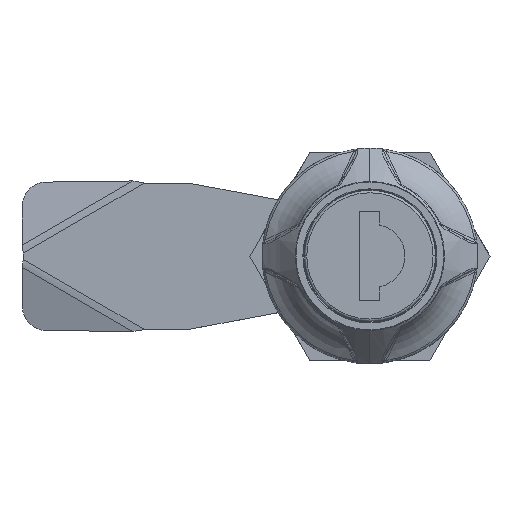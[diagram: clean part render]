
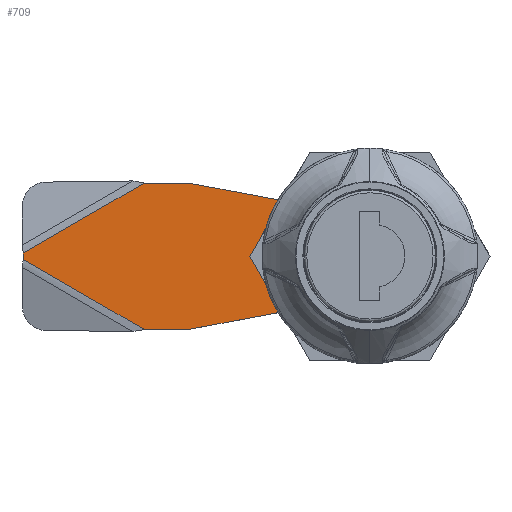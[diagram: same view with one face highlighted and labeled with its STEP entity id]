
A CAD part, top view. The second image highlights one B-rep face of the part: STEP entity #709.
In plain terms, the highlighted planar face has unit normal (0, 0, 1).
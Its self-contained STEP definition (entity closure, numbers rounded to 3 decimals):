
#60 = DIRECTION ( 'NONE',  ( 0.983, -0.185, 0. ) ) ;
#115 = DIRECTION ( 'NONE',  ( 1., 0., 0. ) ) ;
#164 = CARTESIAN_POINT ( 'NONE',  ( 4.05, 4.05, 3. ) ) ;
#176 = EDGE_CURVE ( 'NONE', #8195, #1231, #4785, .T. ) ;
#409 = DIRECTION ( 'NONE',  ( -0.866, -0.5, 0. ) ) ;
#709 = ADVANCED_FACE ( 'NONE', ( #4428, #13601 ), #11574, .F. ) ;
#757 = EDGE_CURVE ( 'NONE', #13586, #6692, #7002, .T. ) ;
#796 = VECTOR ( 'NONE', #7290, 1000. ) ;
#848 = EDGE_CURVE ( 'NONE', #2318, #7165, #4076, .T. ) ;
#1111 = CIRCLE ( 'NONE', #3354, 8.5 ) ;
#1177 = VERTEX_POINT ( 'NONE', #9612 ) ;
#1231 = VERTEX_POINT ( 'NONE', #10617 ) ;
#1470 = CARTESIAN_POINT ( 'NONE',  ( -4.05, 4.05, 3. ) ) ;
#1522 = LINE ( 'NONE', #2744, #9975 ) ;
#1618 = CARTESIAN_POINT ( 'NONE',  ( -4.05, -9.5, 3. ) ) ;
#1634 = ORIENTED_EDGE ( 'NONE', *, *, #11701, .T. ) ;
#1691 = CIRCLE ( 'NONE', #10414, 8.5 ) ;
#1791 = EDGE_CURVE ( 'NONE', #11611, #7147, #6713, .T. ) ;
#1807 = VECTOR ( 'NONE', #13968, 1000. ) ;
#2033 = CARTESIAN_POINT ( 'NONE',  ( 10., -4.05, 3. ) ) ;
#2050 = LINE ( 'NONE', #4503, #11181 ) ;
#2176 = CARTESIAN_POINT ( 'NONE',  ( -8.5, 0., 3. ) ) ;
#2228 = CARTESIAN_POINT ( 'NONE',  ( 45., -0.433, 3. ) ) ;
#2304 = ORIENTED_EDGE ( 'NONE', *, *, #13792, .F. ) ;
#2318 = VERTEX_POINT ( 'NONE', #1470 ) ;
#2336 = DIRECTION ( 'NONE',  ( 0., 0., 1. ) ) ;
#2438 = AXIS2_PLACEMENT_3D ( 'NONE', #12486, #14244, #14158 ) ;
#2454 = CARTESIAN_POINT ( 'NONE',  ( 23.5, 9.5, 3. ) ) ;
#2735 = VECTOR ( 'NONE', #60, 1000. ) ;
#2744 = CARTESIAN_POINT ( 'NONE',  ( 23.051, 13.105, 3. ) ) ;
#2908 = ORIENTED_EDGE ( 'NONE', *, *, #9303, .T. ) ;
#3002 = ORIENTED_EDGE ( 'NONE', *, *, #6916, .T. ) ;
#3106 = CARTESIAN_POINT ( 'NONE',  ( 4.05, -9.5, 3. ) ) ;
#3156 = CARTESIAN_POINT ( 'NONE',  ( -4.05, -4.05, 3. ) ) ;
#3354 = AXIS2_PLACEMENT_3D ( 'NONE', #13447, #6807, #115 ) ;
#3484 = LINE ( 'NONE', #3106, #6770 ) ;
#3523 = CARTESIAN_POINT ( 'NONE',  ( 29.295, -9.5, 3. ) ) ;
#3734 = ORIENTED_EDGE ( 'NONE', *, *, #8461, .T. ) ;
#3760 = CARTESIAN_POINT ( 'NONE',  ( 14.824, -17.855, 3. ) ) ;
#3824 = CIRCLE ( 'NONE', #5104, 2.5 ) ;
#4076 = LINE ( 'NONE', #4815, #8882 ) ;
#4178 = CARTESIAN_POINT ( 'NONE',  ( 10., 9.5, 3. ) ) ;
#4203 = CARTESIAN_POINT ( 'NONE',  ( 10., -9.5, 3. ) ) ;
#4294 = CARTESIAN_POINT ( 'NONE',  ( 45., 0.433, 3. ) ) ;
#4428 = FACE_OUTER_BOUND ( 'NONE', #9213, .T. ) ;
#4503 = CARTESIAN_POINT ( 'NONE',  ( 10.463, 7.043, 3. ) ) ;
#4573 = DIRECTION ( 'NONE',  ( 1., 0., 0. ) ) ;
#4720 = VERTEX_POINT ( 'NONE', #12326 ) ;
#4785 = LINE ( 'NONE', #13024, #1807 ) ;
#4815 = CARTESIAN_POINT ( 'NONE',  ( 10., 4.05, 3. ) ) ;
#5104 = AXIS2_PLACEMENT_3D ( 'NONE', #4178, #11890, #5286 ) ;
#5286 = DIRECTION ( 'NONE',  ( 1., 0., 0. ) ) ;
#5583 = ORIENTED_EDGE ( 'NONE', *, *, #176, .T. ) ;
#6347 = VERTEX_POINT ( 'NONE', #3156 ) ;
#6371 = VECTOR ( 'NONE', #7835, 1000. ) ;
#6374 = LINE ( 'NONE', #1618, #796 ) ;
#6394 = DIRECTION ( 'NONE',  ( -1., 0., 0. ) ) ;
#6395 = DIRECTION ( 'NONE',  ( -1., 0., 0. ) ) ;
#6692 = VERTEX_POINT ( 'NONE', #7023 ) ;
#6713 = LINE ( 'NONE', #11712, #12601 ) ;
#6730 = CARTESIAN_POINT ( 'NONE',  ( 45., 6.5, 3. ) ) ;
#6770 = VECTOR ( 'NONE', #11950, 1000. ) ;
#6807 = DIRECTION ( 'NONE',  ( 0., 0., 1. ) ) ;
#6916 = EDGE_CURVE ( 'NONE', #4720, #8195, #3824, .T. ) ;
#7002 = CIRCLE ( 'NONE', #2438, 2.5 ) ;
#7023 = CARTESIAN_POINT ( 'NONE',  ( 10.463, -7.043, 3. ) ) ;
#7147 = VERTEX_POINT ( 'NONE', #3523 ) ;
#7165 = VERTEX_POINT ( 'NONE', #164 ) ;
#7169 = EDGE_LOOP ( 'NONE', ( #1634, #9648, #12668, #8140 ) ) ;
#7290 = DIRECTION ( 'NONE',  ( 0., 1., 0. ) ) ;
#7416 = CARTESIAN_POINT ( 'NONE',  ( 29.295, 9.5, 3. ) ) ;
#7835 = DIRECTION ( 'NONE',  ( 0.987, 0.163, 0. ) ) ;
#8115 = EDGE_CURVE ( 'NONE', #11643, #8309, #13167, .T. ) ;
#8140 = ORIENTED_EDGE ( 'NONE', *, *, #848, .T. ) ;
#8195 = VERTEX_POINT ( 'NONE', #10986 ) ;
#8239 = DIRECTION ( 'NONE',  ( -0.866, 0.5, 0. ) ) ;
#8255 = DIRECTION ( 'NONE',  ( 0., 0., -1. ) ) ;
#8259 = VECTOR ( 'NONE', #13368, 1000. ) ;
#8309 = VERTEX_POINT ( 'NONE', #2454 ) ;
#8314 = ORIENTED_EDGE ( 'NONE', *, *, #1791, .T. ) ;
#8461 = EDGE_CURVE ( 'NONE', #6692, #11611, #9295, .T. ) ;
#8758 = LINE ( 'NONE', #6730, #8259 ) ;
#8834 = VERTEX_POINT ( 'NONE', #2228 ) ;
#8882 = VECTOR ( 'NONE', #4573, 1000. ) ;
#8905 = CARTESIAN_POINT ( 'NONE',  ( 10.463, -7.043, 3. ) ) ;
#8916 = VERTEX_POINT ( 'NONE', #10029 ) ;
#8929 = EDGE_CURVE ( 'NONE', #8916, #13586, #12240, .T. ) ;
#8954 = CARTESIAN_POINT ( 'NONE',  ( 0., 0., 3. ) ) ;
#9199 = VERTEX_POINT ( 'NONE', #4294 ) ;
#9213 = EDGE_LOOP ( 'NONE', ( #2304, #2908, #13714, #11627, #14335, #3002, #5583, #13760, #13094, #12171, #10675, #3734, #8314 ) ) ;
#9295 = LINE ( 'NONE', #8905, #2735 ) ;
#9303 = EDGE_CURVE ( 'NONE', #8834, #9199, #8758, .T. ) ;
#9469 = VECTOR ( 'NONE', #6395, 1000. ) ;
#9612 = CARTESIAN_POINT ( 'NONE',  ( 4.05, -4.05, 3. ) ) ;
#9648 = ORIENTED_EDGE ( 'NONE', *, *, #14250, .T. ) ;
#9741 = EDGE_CURVE ( 'NONE', #6347, #2318, #6374, .T. ) ;
#9975 = VECTOR ( 'NONE', #8239, 1000. ) ;
#10029 = CARTESIAN_POINT ( 'NONE',  ( 1.383, -8.387, 3. ) ) ;
#10049 = DIRECTION ( 'NONE',  ( 1., 0., 0. ) ) ;
#10385 = DIRECTION ( 'NONE',  ( 1., 0., 0. ) ) ;
#10414 = AXIS2_PLACEMENT_3D ( 'NONE', #8954, #2336, #10049 ) ;
#10617 = CARTESIAN_POINT ( 'NONE',  ( 1.383, 8.387, 3. ) ) ;
#10675 = ORIENTED_EDGE ( 'NONE', *, *, #757, .T. ) ;
#10829 = VECTOR ( 'NONE', #10851, 1000. ) ;
#10851 = DIRECTION ( 'NONE',  ( -1., 0., 0. ) ) ;
#10859 = EDGE_CURVE ( 'NONE', #1231, #13080, #1111, .T. ) ;
#10986 = CARTESIAN_POINT ( 'NONE',  ( 9.593, 7.033, 3. ) ) ;
#11012 = CARTESIAN_POINT ( 'NONE',  ( 9.593, -7.033, 3. ) ) ;
#11181 = VECTOR ( 'NONE', #12160, 1000. ) ;
#11574 = PLANE ( 'NONE',  #11582 ) ;
#11582 = AXIS2_PLACEMENT_3D ( 'NONE', #4203, #8255, #6394 ) ;
#11611 = VERTEX_POINT ( 'NONE', #13954 ) ;
#11627 = ORIENTED_EDGE ( 'NONE', *, *, #8115, .T. ) ;
#11643 = VERTEX_POINT ( 'NONE', #7416 ) ;
#11701 = EDGE_CURVE ( 'NONE', #7165, #1177, #3484, .T. ) ;
#11712 = CARTESIAN_POINT ( 'NONE',  ( 42., -9.5, 3. ) ) ;
#11890 = DIRECTION ( 'NONE',  ( 0., 0., -1. ) ) ;
#11897 = CARTESIAN_POINT ( 'NONE',  ( 42., 9.5, 3. ) ) ;
#11950 = DIRECTION ( 'NONE',  ( 0., -1., 0. ) ) ;
#12094 = VECTOR ( 'NONE', #409, 1000. ) ;
#12160 = DIRECTION ( 'NONE',  ( -0.983, -0.185, 0. ) ) ;
#12171 = ORIENTED_EDGE ( 'NONE', *, *, #8929, .T. ) ;
#12240 = LINE ( 'NONE', #13430, #6371 ) ;
#12326 = CARTESIAN_POINT ( 'NONE',  ( 10.463, 7.043, 3. ) ) ;
#12486 = CARTESIAN_POINT ( 'NONE',  ( 10., -9.5, 3. ) ) ;
#12601 = VECTOR ( 'NONE', #10385, 1000. ) ;
#12668 = ORIENTED_EDGE ( 'NONE', *, *, #9741, .T. ) ;
#12793 = LINE ( 'NONE', #3760, #12094 ) ;
#13024 = CARTESIAN_POINT ( 'NONE',  ( 9.593, 7.033, 3. ) ) ;
#13080 = VERTEX_POINT ( 'NONE', #2176 ) ;
#13094 = ORIENTED_EDGE ( 'NONE', *, *, #13624, .T. ) ;
#13167 = LINE ( 'NONE', #11897, #9469 ) ;
#13337 = EDGE_CURVE ( 'NONE', #9199, #11643, #1522, .T. ) ;
#13368 = DIRECTION ( 'NONE',  ( 0., 1., 0. ) ) ;
#13430 = CARTESIAN_POINT ( 'NONE',  ( 9.593, -7.033, 3. ) ) ;
#13447 = CARTESIAN_POINT ( 'NONE',  ( 0., 0., 3. ) ) ;
#13586 = VERTEX_POINT ( 'NONE', #11012 ) ;
#13601 = FACE_BOUND ( 'NONE', #7169, .T. ) ;
#13612 = EDGE_CURVE ( 'NONE', #8309, #4720, #2050, .T. ) ;
#13624 = EDGE_CURVE ( 'NONE', #13080, #8916, #1691, .T. ) ;
#13714 = ORIENTED_EDGE ( 'NONE', *, *, #13337, .T. ) ;
#13760 = ORIENTED_EDGE ( 'NONE', *, *, #10859, .T. ) ;
#13792 = EDGE_CURVE ( 'NONE', #8834, #7147, #12793, .T. ) ;
#13821 = LINE ( 'NONE', #2033, #10829 ) ;
#13954 = CARTESIAN_POINT ( 'NONE',  ( 23.5, -9.5, 3. ) ) ;
#13968 = DIRECTION ( 'NONE',  ( -0.987, 0.163, 0. ) ) ;
#14158 = DIRECTION ( 'NONE',  ( -1., 0., 0. ) ) ;
#14244 = DIRECTION ( 'NONE',  ( 0., 0., -1. ) ) ;
#14250 = EDGE_CURVE ( 'NONE', #1177, #6347, #13821, .T. ) ;
#14335 = ORIENTED_EDGE ( 'NONE', *, *, #13612, .T. ) ;
